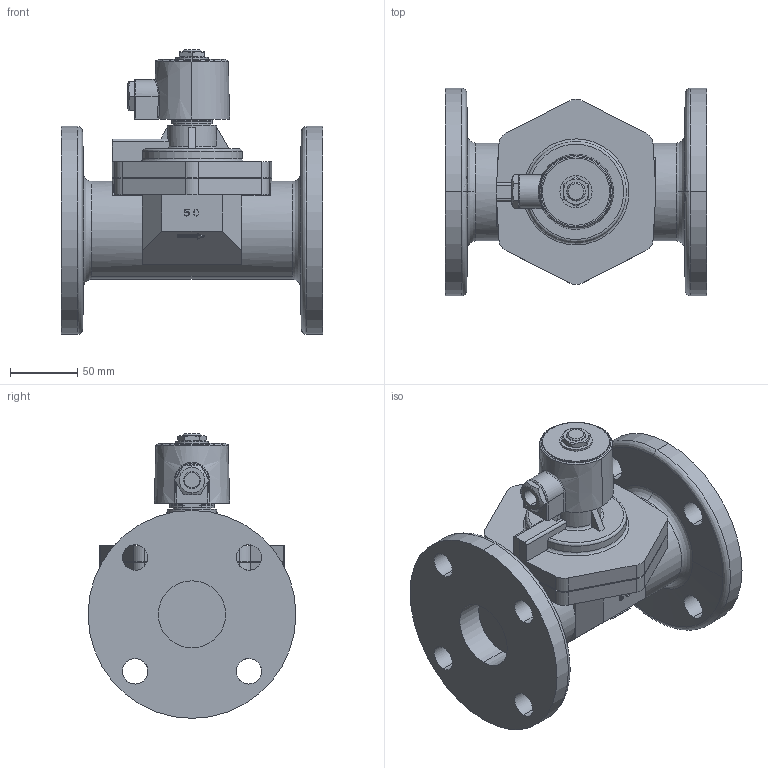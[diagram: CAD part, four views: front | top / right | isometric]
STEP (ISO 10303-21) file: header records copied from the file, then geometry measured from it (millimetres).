
FILE_DESCRIPTION( (''), '2;1');
FILE_NAME ('PC1056.13084.DP-200F(2B)_17280.stp','2024-07-19T15:16:13',(''),(''),'spGate 19.8.4 (****-****-****-****)','','');
FILE_SCHEMA (('AUTOMOTIVE_DESIGN'));
Length unit declared in the file: millimetre
Products named in the file (5): Assembly; ACコイル10A; DP-200(32_50A）パイプP; コイル六角ナット座金; DP200F(50A)本体
Assembly tree (4 placements, depth 2):
  Assembly
    ACコイル10A
    DP-200(32_50A）パイプP
    コイル六角ナット座金
    DP200F(50A)本体
Bounding box: 195 x 155 x 212.2 mm (x, y, z)
Volume: 1718610.4 mm3; surface area: 193990.5 mm2
Topology: 4 solids, 4 shells, 388 faces, 959 edges, 606 vertices
Faces by surface type: plane 172, cylinder 118, bspline 98
Entity records: 22474 total; most frequent: CARTESIAN_POINT 6297, ORIENTED_EDGE 1918, DIRECTION 1521, COLOUR_RGB 1351, PRESENTATION_STYLE_ASSIGNMENT 1351, STYLED_ITEM 1351, EDGE_CURVE 959, DRAUGHTING_PRE_DEFINED_CURVE_FONT 959
